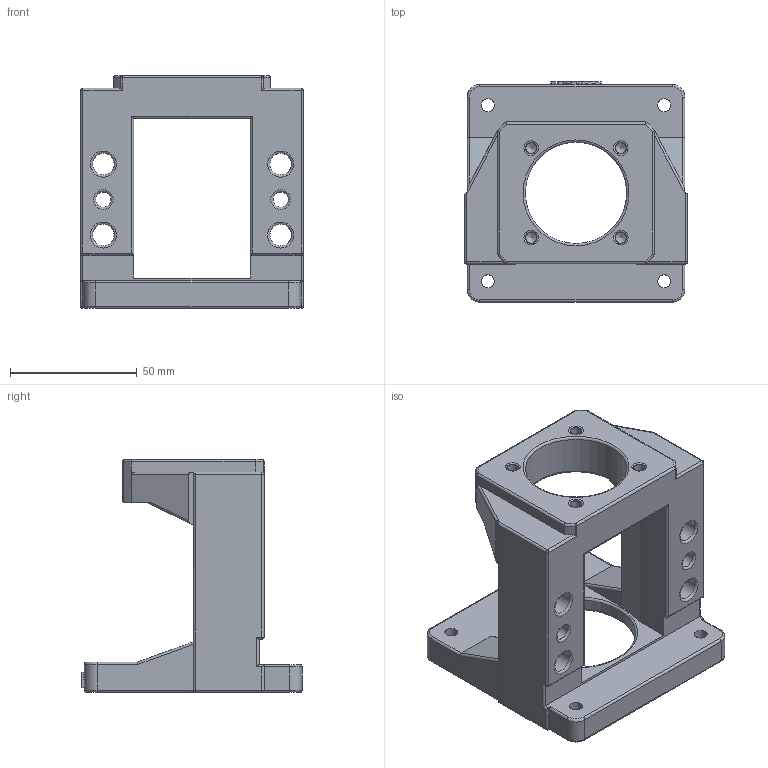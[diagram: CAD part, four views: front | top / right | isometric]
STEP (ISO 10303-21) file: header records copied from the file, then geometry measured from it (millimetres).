
FILE_DESCRIPTION(/* description */ (''),/* implementation_level */ '2;1');
FILE_NAME(/* name */ 'M85F-FK15-A.stp',/* time_stamp */ '2016-10-27T10:19:20+08:00',/* author */ (''),/* organization */ (''),/* preprocessor_version */ 'ST-DEVELOPER v15',/* originating_system */ 'SIEMENS PLM Software NX 8.5',/* authorisation */ '');
FILE_SCHEMA (('CONFIG_CONTROL_DESIGN'));
Length unit declared in the file: millimetre
Products named in the file (1): MBA15-F
Bounding box: 88 x 87 x 92 mm (x, y, z)
Volume: 168198.7 mm3; surface area: 45017.2 mm2
Topology: 1 solids, 1 shells, 297 faces, 757 edges, 466 vertices
Faces by surface type: plane 110, cylinder 91, extrusion 41, torus 31, cone 12, sphere 12
Full cylindrical faces by diameter (mm): 4.3 x4, 5.1 x4, 6 x2, 8 x2, 8.5 x4, 14 x4, 40 x1, 47 x1, 73 x1
Entity records: 9157 total; most frequent: CARTESIAN_POINT 2655, ORIENTED_EDGE 1348, DIRECTION 1148, EDGE_CURVE 674, VERTEX_POINT 453, AXIS2_PLACEMENT_3D 416, EDGE_LOOP 393, VECTOR 316
